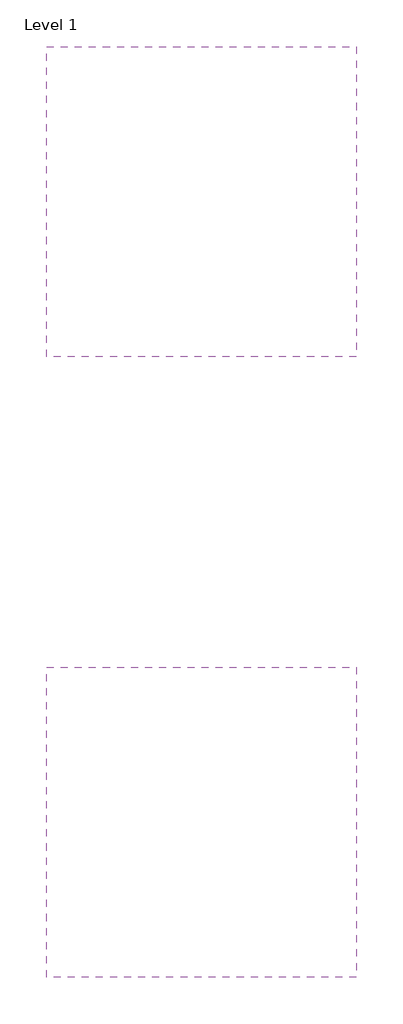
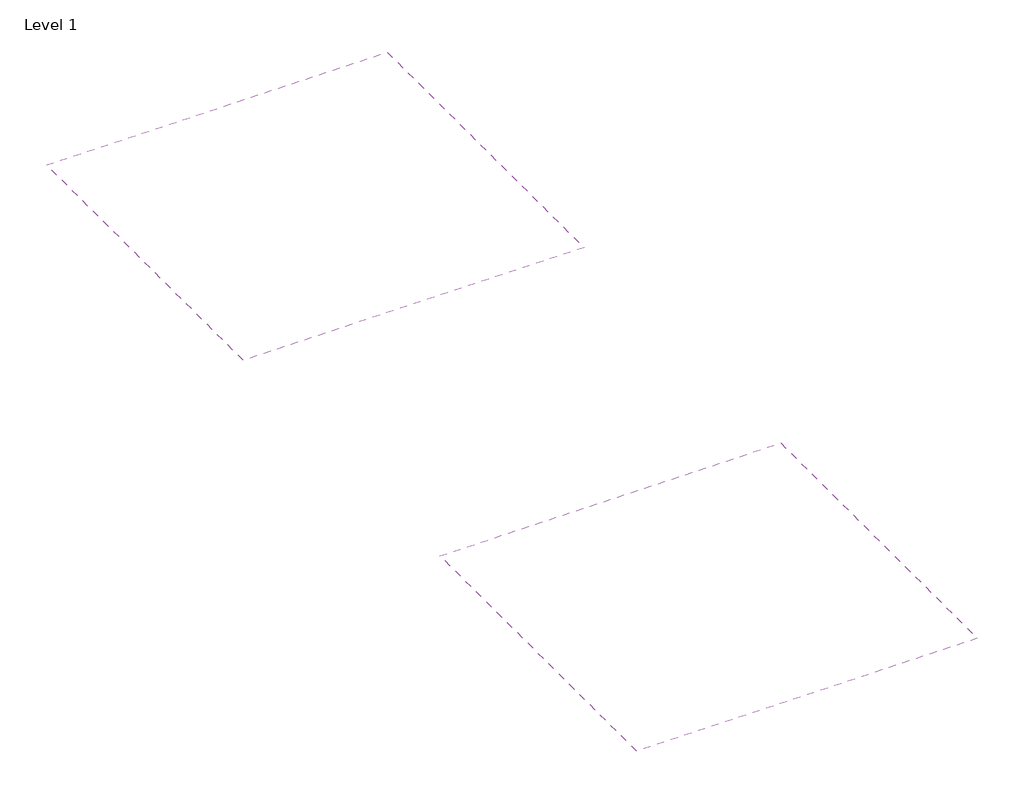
# One storey: 2 coverings.
"""IFC4 building model written with IfcOpenShell, lengths in millimetres."""

from ifc_helpers import new_model, si_unit, frame, origin, place, context, project, spatial, polyline, outline, extrude, element, save

model = new_model("IFC4")

# Units and contexts
model_context = context("Model", 3, world=origin())
ifc_project = project(units=[si_unit("LENGTHUNIT", "METRE", prefix="MILLI")], contexts=[model_context])

# Site, building, storey
site = spatial("IfcSite", under=ifc_project)
building = spatial("IfcBuilding", under=site)
storey = spatial("IfcBuildingStorey", under=building, Name="Level 1", Elevation=0.0)

# Coverings
placement = place(None, origin())
element("IfcCovering", 1, ObjectType="NBS_ArmstrongCeilingsLtd_UnitModularSuspendedCeilingSystem_DuneMaxBoard-Prelude24Exposed_600x600x18mm_GB", at=placement, inside=storey, context=model_context, shape_type="SweptSolid", body=[
    extrude(outline(polyline([(2400.0, 12600.0), (2400.0, 10100.0), (-100.0, 10100.0), (-100.0, 12600.0), (2400.0, 12600.0)])), frame((0.0, 0.0, 2600.0), z_axis=(0.0, 0.0, 1.0), x_axis=(1.0, 0.0, 0.0)), (0.0, 0.0, 1.0), 43.0),
])
element("IfcCovering", 2, ObjectType="NBS_ArmstrongCeilingsLtd_UnitModularSuspendedCeilingSystem_DuneMaxBoard-Prelude24Exposed_1200x600x18mm_GB", at=placement, inside=storey, context=model_context, shape_type="SweptSolid", body=[
    extrude(outline(polyline([(2400.0, 7600.0), (2400.0, 5100.0), (-100.0, 5100.0), (-100.0, 7600.0), (2400.0, 7600.0)])), frame((0.0, 0.0, 2600.0), z_axis=(0.0, 0.0, 1.0), x_axis=(1.0, 0.0, 0.0)), (0.0, 0.0, 1.0), 43.0),
])

save(model, "model.ifc")
